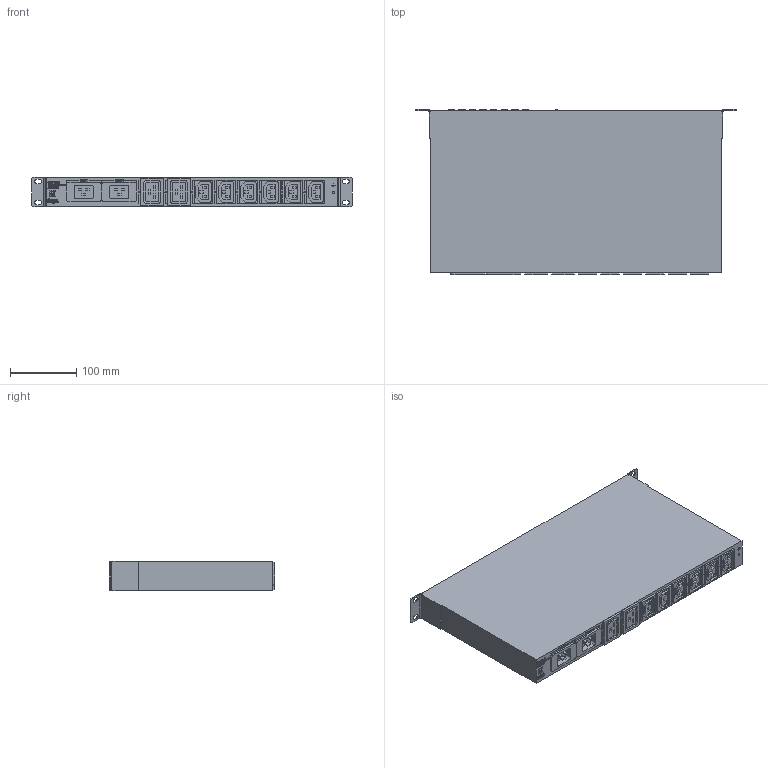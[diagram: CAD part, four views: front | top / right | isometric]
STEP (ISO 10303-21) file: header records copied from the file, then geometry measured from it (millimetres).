
FILE_DESCRIPTION(('STEP AP214'), '1');
FILE_NAME('1', '', ('UNSPECIFIED'), ('UNSPECIFIED'), 'ASCON STEP Converter 1.6', 'ASCON Math Kernel', '');
FILE_SCHEMA(('AUTOMOTIVE_DESIGN { 1 0 10303 214 3 1 1}'));
Length unit declared in the file: millimetre
Bounding box: 485 x 250 x 43.9 mm (x, y, z)
Volume: 4751713.9 mm3; surface area: 302949.7 mm2
Topology: 7 solids, 7 shells, 4116 faces, 11115 edges, 7410 vertices
Faces by surface type: plane 2255, extrusion 1769, cylinder 92
Full cylindrical faces by diameter (mm): 2 x1, 3.2 x3, 4 x4, 9.601 x8, 11.601 x8
Entity records: 168801 total; most frequent: CARTESIAN_POINT 38999, ORIENTED_EDGE 22182, DIRECTION 14210, EDGE_CURVE 11091, VECTOR 9138, VERTEX_POINT 7410, LINE 7369, B_SPLINE_CURVE_WITH_KNOTS 5307
